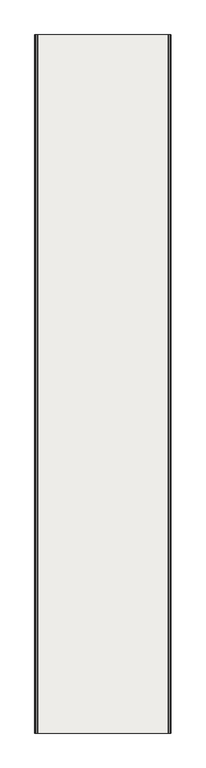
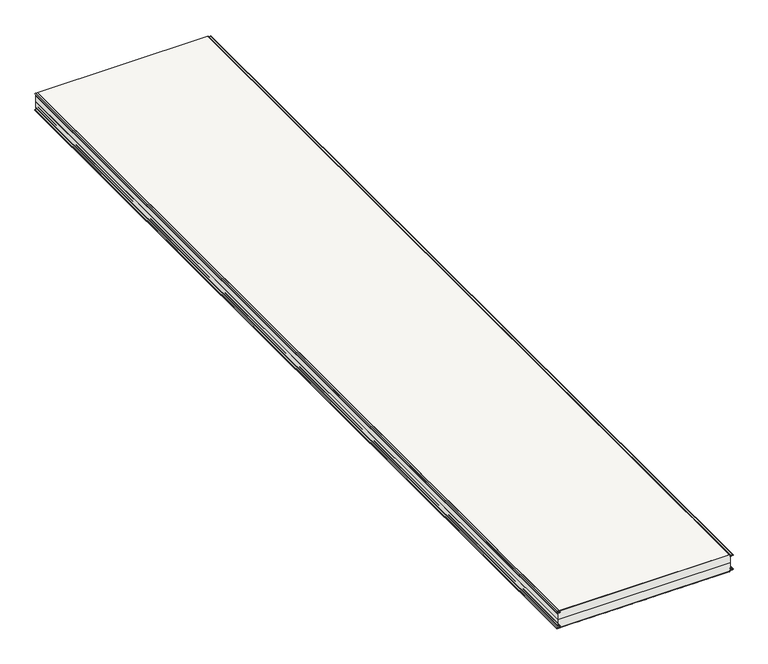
"""IFC4 building model written with IfcOpenShell, lengths in millimetres: covering geometry, Płyta warstwowa ścienna SPW-S CORE PIR (pojedynczy arkusz) : -."""

from ifc_helpers import new_model, si_unit, point, frame, frame_2d, origin, place, context, project, spatial, polyline, circle_curve, trimmed, segment, composite_curve, outline, extrude, source, transform, mapped, element, save
from ifc_brep_helpers import plane_surface, cylinder_surface, revolved_surface, advanced_brep


def covering_9212b8ed(model_context):
    return source(origin(), model_context, "Body", "SolidModel", [
        extrude(outline(composite_curve([segment(trimmed(circle_curve(frame_2d((-117.0000044, -1187.1173525)), 1.9999956), [point((-119.0, -1187.1173525))], [point((-115.0012272, -1187.1871548))], True, "CARTESIAN"), True, "CONTINUOUS"), segment(polyline([(-115.0012272, -1187.1871548), (-114.4480424, -1171.3468073)]), True, "CONTINUOUS"), segment(trimmed(circle_curve(frame_2d((-109.950784, -1171.5038629)), 4.5), [point((-114.4480424, -1171.3468073))], [point((-105.4569506, -1171.2683589))], False, "CARTESIAN"), True, "CONTINUOUS"), segment(polyline([(-105.4569506, -1171.2683589), (-104.890434, -1182.0785016)]), True, "CONTINUOUS"), segment(trimmed(circle_curve(frame_2d((-103.3924895, -1182.0000003)), 1.5), [point((-104.890434, -1182.0785016))], [point((-103.3924895, -1183.5000003))], True, "CARTESIAN"), True, "CONTINUOUS"), segment(polyline([(-103.3924895, -1183.5000003), (-100.8924895, -1183.5000003), (-100.8924895, -1184.5000003), (-103.3924895, -1184.5000003)]), True, "CONTINUOUS"), segment(trimmed(circle_curve(frame_2d((-103.3924895, -1182.0000003)), 2.5), [point((-103.3924895, -1184.5000003))], [point((-105.8890636, -1182.1308358))], False, "CARTESIAN"), True, "CONTINUOUS"), segment(polyline([(-105.8890636, -1182.1308358), (-106.4555803, -1171.3206931)]), True, "CONTINUOUS"), segment(trimmed(circle_curve(frame_2d((-109.950784, -1171.5038629)), 3.5), [point((-106.4555803, -1171.3206931))], [point((-113.4486516, -1171.3817085))], True, "CARTESIAN"), True, "CONTINUOUS"), segment(polyline([(-113.4486516, -1171.3817085), (-114.0018364, -1187.222056)]), True, "CONTINUOUS"), segment(trimmed(circle_curve(frame_2d((-117.0000044, -1187.1173525)), 2.9999956), [point((-114.0018364, -1187.222056))], [point((-120.0, -1187.1173525))], False, "CARTESIAN"), True, "CONTINUOUS"), segment(polyline([(-120.0, -1187.1173525), (-120.0, -1185.0000003), (-119.0, -1185.0000003), (-119.0, -1187.1173525)]), True, "CONTINUOUS")], self_intersect=False)), frame((0.0, -6000.0, 0.0), z_axis=(0.0, 1.0, 0.0), x_axis=(0.0, 0.0, 1.0)), (0.0, 0.0, 1.0), 6000.0),
        extrude(outline(composite_curve([segment(polyline([(-1.0, -1187.1173525), (-1.0, -1185.0000003), (0.0, -1185.0000003), (0.0, -1187.1173525)]), True, "CONTINUOUS"), segment(trimmed(circle_curve(frame_2d((-2.9999956, -1187.1173525)), 2.9999956), [point((0.0, -1187.1173525))], [point((-5.9981636, -1187.222056))], False, "CARTESIAN"), True, "CONTINUOUS"), segment(polyline([(-5.9981636, -1187.222056), (-6.5513484, -1171.3817085)]), True, "CONTINUOUS"), segment(trimmed(circle_curve(frame_2d((-10.049216, -1171.5038629)), 3.5), [point((-6.5513484, -1171.3817085))], [point((-13.5444197, -1171.3206931))], True, "CARTESIAN"), True, "CONTINUOUS"), segment(polyline([(-13.5444197, -1171.3206931), (-14.1109364, -1182.1308358)]), True, "CONTINUOUS"), segment(trimmed(circle_curve(frame_2d((-16.6075105, -1182.0000003)), 2.5), [point((-14.1109364, -1182.1308358))], [point((-16.6075105, -1184.5000003))], False, "CARTESIAN"), True, "CONTINUOUS"), segment(polyline([(-16.6075105, -1184.5000003), (-19.1075105, -1184.5000003), (-19.1075105, -1183.5000003), (-16.6075105, -1183.5000003)]), True, "CONTINUOUS"), segment(trimmed(circle_curve(frame_2d((-16.6075105, -1182.0000003)), 1.5), [point((-16.6075105, -1183.5000003))], [point((-15.109566, -1182.0785016))], True, "CARTESIAN"), True, "CONTINUOUS"), segment(polyline([(-15.109566, -1182.0785016), (-14.5430494, -1171.2683589)]), True, "CONTINUOUS"), segment(trimmed(circle_curve(frame_2d((-10.049216, -1171.5038629)), 4.5), [point((-14.5430494, -1171.2683589))], [point((-5.5519576, -1171.3468073))], False, "CARTESIAN"), True, "CONTINUOUS"), segment(polyline([(-5.5519576, -1171.3468073), (-4.9987728, -1187.1871548)]), True, "CONTINUOUS"), segment(trimmed(circle_curve(frame_2d((-2.9999956, -1187.1173525)), 1.9999956), [point((-4.9987728, -1187.1871548))], [point((-1.0, -1187.1173525))], True, "CARTESIAN"), True, "CONTINUOUS")], self_intersect=False)), frame((0.0, -6000.0, 0.0), z_axis=(0.0, 1.0, 0.0), x_axis=(0.0, 0.0, 1.0)), (0.0, 0.0, 1.0), 6000.0),
        advanced_brep(
        [(-1185.0, 0.0, -119.0), (-43.1186621, 0.0, -119.0), (-41.1186621, 0.0, -117.0), (-41.1186621, 0.0, -114.93), (-39.1884611, 0.0, -112.9312183), (-22.5992017, 0.0, -112.3519086), (-22.43132, 0.0, -107.5379716), (-33.6570079, 0.0, -106.9496582), (-36.5, 0.0, -103.9537696), (-36.5, 0.0, -101.4537696), (-35.5, 0.0, -101.4537696), (-35.5, 0.0, -103.9537696), (-33.6046719, 0.0, -105.9510287), (-22.6550677, 0.0, -106.5248731), (-22.6835162, 0.0, -113.3501612), (-39.1535616, 0.0, -113.9306092), (-40.1186621, 0.0, -114.93), (-40.1186621, 0.0, -117.0), (-43.1186621, 0.0, -120.0), (-90.0275239, 0.0, -120.0), (-91.4098003, 0.0, -119.6), (-135.6275239, 0.0, -119.6), (-137.0098003, 0.0, -120.0), (-181.2275239, 0.0, -120.0), (-182.6098003, 0.0, -119.6), (-226.8275239, 0.0, -119.6), (-228.2098003, 0.0, -120.0), (-272.4275239, 0.0, -120.0), (-273.8098003, 0.0, -119.6), (-318.0275239, 0.0, -119.6), (-319.4098003, 0.0, -120.0), (-363.6275239, 0.0, -120.0), (-365.0098003, 0.0, -119.6), (-409.2275239, 0.0, -119.6), (-410.6098003, 0.0, -120.0), (-454.8275239, 0.0, -120.0), (-456.2098003, 0.0, -119.6), (-500.4275239, 0.0, -119.6), (-501.8098003, 0.0, -120.0), (-546.0275239, 0.0, -120.0), (-547.4098003, 0.0, -119.6), (-591.6275239, 0.0, -119.6), (-593.0098003, 0.0, -120.0), (-637.2275239, 0.0, -120.0), (-638.6098003, 0.0, -119.6), (-682.8275239, 0.0, -119.6), (-684.2098003, 0.0, -120.0), (-728.4275239, 0.0, -120.0), (-729.8098003, 0.0, -119.6), (-774.0275239, 0.0, -119.6), (-775.4098003, 0.0, -120.0), (-819.6275239, 0.0, -120.0), (-821.0098003, 0.0, -119.6), (-865.2275239, 0.0, -119.6), (-866.6098003, 0.0, -120.0), (-910.8275239, 0.0, -120.0), (-912.2098003, 0.0, -119.6), (-956.4275239, 0.0, -119.6), (-957.8098003, 0.0, -120.0), (-1002.0275239, 0.0, -120.0), (-1003.4098003, 0.0, -119.6), (-1047.6275239, 0.0, -119.6), (-1049.0098003, 0.0, -120.0), (-1093.2275239, 0.0, -120.0), (-1094.6098003, 0.0, -119.6), (-1138.8275239, 0.0, -119.6), (-1140.2098003, 0.0, -120.0), (-1185.0, 0.0, -120.0), (-1185.0, -6000.0, -119.0), (-1185.0, -6000.0, -120.0), (-1140.2098003, -6000.0, -120.0), (-1138.8275239, -6000.0, -119.6), (-1094.6098003, -6000.0, -119.6), (-1093.2275239, -6000.0, -120.0), (-1049.0098003, -6000.0, -120.0), (-1047.6275239, -6000.0, -119.6), (-1003.4098003, -6000.0, -119.6), (-1002.0275239, -6000.0, -120.0), (-957.8098003, -6000.0, -120.0), (-956.4275239, -6000.0, -119.6), (-912.2098003, -6000.0, -119.6), (-910.8275239, -6000.0, -120.0), (-866.6098003, -6000.0, -120.0), (-865.2275239, -6000.0, -119.6), (-821.0098003, -6000.0, -119.6), (-819.6275239, -6000.0, -120.0), (-775.4098003, -6000.0, -120.0), (-774.0275239, -6000.0, -119.6), (-729.8098003, -6000.0, -119.6), (-728.4275239, -6000.0, -120.0), (-684.2098003, -6000.0, -120.0), (-682.8275239, -6000.0, -119.6), (-638.6098003, -6000.0, -119.6), (-637.2275239, -6000.0, -120.0), (-593.0098003, -6000.0, -120.0), (-591.6275239, -6000.0, -119.6), (-547.4098003, -6000.0, -119.6), (-546.0275239, -6000.0, -120.0), (-501.8098003, -6000.0, -120.0), (-500.4275239, -6000.0, -119.6), (-456.2098003, -6000.0, -119.6), (-454.8275239, -6000.0, -120.0), (-410.6098003, -6000.0, -120.0), (-409.2275239, -6000.0, -119.6), (-365.0098003, -6000.0, -119.6), (-363.6275239, -6000.0, -120.0), (-319.4098003, -6000.0, -120.0), (-318.0275239, -6000.0, -119.6), (-273.8098003, -6000.0, -119.6), (-272.4275239, -6000.0, -120.0), (-228.2098003, -6000.0, -120.0), (-226.8275239, -6000.0, -119.6), (-182.6098003, -6000.0, -119.6), (-181.2275239, -6000.0, -120.0), (-137.0098003, -6000.0, -120.0), (-135.6275239, -6000.0, -119.6), (-91.4098003, -6000.0, -119.6), (-90.0275239, -6000.0, -120.0), (-43.1186621, -6000.0, -120.0), (-40.1186621, -6000.0, -117.0), (-40.1186621, -6000.0, -114.93), (-39.1535616, -6000.0, -113.9306092), (-22.7218558, -6000.0, -113.3568014), (-22.6550677, -6000.0, -106.5248731), (-33.6046719, -6000.0, -105.9510287), (-35.5, -6000.0, -103.9537696), (-35.5, -6000.0, -101.4537696), (-36.5, -6000.0, -101.4537696), (-36.5, -6000.0, -103.9537696), (-33.6570079, -6000.0, -106.9496582), (-22.43132, -6000.0, -107.5379716), (-22.5993141, -6000.0, -112.3486915), (-39.1884611, -6000.0, -112.9312183), (-41.1186621, -6000.0, -114.93), (-41.1186621, -6000.0, -117.0), (-43.1186621, -6000.0, -119.0)],
        [
            (0, 1),
            (1, 2, circle_curve(frame((-43.1186621, 0.0, -117.0), z_axis=(0.0, -1.0, 0.0), x_axis=(1.0, 0.0, 0.0)), 2.0)),
            (2, 3),
            (3, 4, circle_curve(frame((-39.1186621, 0.0, -114.93), z_axis=(0.0, 1.0, 0.0), x_axis=(1.0, 0.0, 0.0)), 2.0)),
            (4, 5),
            (5, 6, circle_curve(frame((-22.6835162, 0.0, -109.9374579), z_axis=(0.0, -1.0, 0.0), x_axis=(1.0, 0.0, 0.0)), 2.4127033)),
            (6, 7),
            (7, 8, circle_curve(frame((-33.5, 0.0, -103.9537696), z_axis=(0.0, 1.0, 0.0), x_axis=(1.0, 0.0, 0.0)), 3.0)),
            (8, 9),
            (9, 10),
            (10, 11),
            (11, 12, circle_curve(frame((-33.5, 0.0, -103.9537696), z_axis=(0.0, -1.0, 0.0), x_axis=(1.0, 0.0, 0.0)), 2.0)),
            (12, 13),
            (13, 14, circle_curve(frame((-22.6835162, 0.0, -109.9374579), z_axis=(0.0, 1.0, 0.0), x_axis=(1.0, 0.0, 0.0)), 3.4127033)),
            (14, 15),
            (15, 16, circle_curve(frame((-39.1186621, 0.0, -114.93), z_axis=(0.0, -1.0, 0.0), x_axis=(1.0, 0.0, 0.0)), 1.0)),
            (16, 17),
            (17, 18, circle_curve(frame((-43.1186621, 0.0, -117.0), z_axis=(0.0, 1.0, 0.0), x_axis=(1.0, 0.0, 0.0)), 3.0)),
            (18, 19),
            (19, 20),
            (20, 21),
            (21, 22),
            (22, 23),
            (23, 24),
            (24, 25),
            (25, 26),
            (26, 27),
            (27, 28),
            (28, 29),
            (29, 30),
            (30, 31),
            (31, 32),
            (32, 33),
            (33, 34),
            (34, 35),
            (35, 36),
            (36, 37),
            (37, 38),
            (38, 39),
            (39, 40),
            (40, 41),
            (41, 42),
            (42, 43),
            (43, 44),
            (44, 45),
            (45, 46),
            (46, 47),
            (47, 48),
            (48, 49),
            (49, 50),
            (50, 51),
            (51, 52),
            (52, 53),
            (53, 54),
            (54, 55),
            (55, 56),
            (56, 57),
            (57, 58),
            (58, 59),
            (59, 60),
            (60, 61),
            (61, 62),
            (62, 63),
            (63, 64),
            (64, 65),
            (65, 66),
            (66, 67),
            (67, 0),
            (68, 69),
            (69, 70),
            (70, 71),
            (71, 72),
            (72, 73),
            (73, 74),
            (74, 75),
            (75, 76),
            (76, 77),
            (77, 78),
            (78, 79),
            (79, 80),
            (80, 81),
            (81, 82),
            (82, 83),
            (83, 84),
            (84, 85),
            (85, 86),
            (86, 87),
            (87, 88),
            (88, 89),
            (89, 90),
            (90, 91),
            (91, 92),
            (92, 93),
            (93, 94),
            (94, 95),
            (95, 96),
            (96, 97),
            (97, 98),
            (98, 99),
            (99, 100),
            (100, 101),
            (101, 102),
            (102, 103),
            (103, 104),
            (104, 105),
            (105, 106),
            (106, 107),
            (107, 108),
            (108, 109),
            (109, 110),
            (110, 111),
            (111, 112),
            (112, 113),
            (113, 114),
            (114, 115),
            (115, 116),
            (116, 117),
            (117, 118),
            (118, 119, circle_curve(frame((-43.1186621, -6000.0, -117.0), z_axis=(0.0, -1.0, 0.0), x_axis=(1.0, 0.0, 0.0)), 3.0)),
            (119, 120),
            (120, 121, circle_curve(frame((-39.1186621, -6000.0, -114.93), z_axis=(0.0, 1.0, 0.0), x_axis=(1.0, 0.0, 0.0)), 1.0)),
            (121, 122),
            (122, 123, circle_curve(frame((-22.6835162, -6000.0, -109.9374579), z_axis=(0.0, -1.0, 0.0), x_axis=(1.0, 0.0, 0.0)), 3.4127033)),
            (123, 124),
            (124, 125, circle_curve(frame((-33.5, -6000.0, -103.9537696), z_axis=(0.0, 1.0, 0.0), x_axis=(1.0, 0.0, 0.0)), 2.0)),
            (125, 126),
            (126, 127),
            (127, 128),
            (128, 129, circle_curve(frame((-33.5, -6000.0, -103.9537696), z_axis=(0.0, -1.0, 0.0), x_axis=(1.0, 0.0, 0.0)), 3.0)),
            (129, 130),
            (130, 131, circle_curve(frame((-22.6835162, -6000.0, -109.9374579), z_axis=(0.0, 1.0, 0.0), x_axis=(1.0, 0.0, 0.0)), 2.4127033)),
            (131, 132),
            (132, 133, circle_curve(frame((-39.1186621, -6000.0, -114.93), z_axis=(0.0, -1.0, 0.0), x_axis=(1.0, 0.0, 0.0)), 2.0)),
            (133, 134),
            (134, 135, circle_curve(frame((-43.1186621, -6000.0, -117.0), z_axis=(0.0, 1.0, 0.0), x_axis=(1.0, 0.0, 0.0)), 2.0)),
            (135, 68),
            (0, 68),
            (135, 1),
            (3, 133),
            (132, 4),
            (2, 134),
            (131, 5),
            (6, 130),
            (129, 7),
            (128, 8),
            (127, 9),
            (126, 10),
            (17, 119),
            (118, 18),
            (16, 120),
            (15, 121),
            (14, 122),
            (12, 124),
            (123, 13),
            (11, 125),
            (117, 19),
            (116, 20),
            (115, 21),
            (114, 22),
            (113, 23),
            (112, 24),
            (111, 25),
            (110, 26),
            (109, 27),
            (108, 28),
            (107, 29),
            (106, 30),
            (105, 31),
            (104, 32),
            (103, 33),
            (102, 34),
            (101, 35),
            (100, 36),
            (99, 37),
            (98, 38),
            (97, 39),
            (96, 40),
            (95, 41),
            (94, 42),
            (93, 43),
            (92, 44),
            (91, 45),
            (90, 46),
            (89, 47),
            (88, 48),
            (87, 49),
            (56, 80),
            (79, 57),
            (78, 58),
            (77, 59),
            (76, 60),
            (75, 61),
            (74, 62),
            (73, 63),
            (72, 64),
            (71, 65),
            (70, 66),
            (69, 67),
            (86, 50),
            (85, 51),
            (84, 52),
            (83, 53),
            (82, 54),
            (81, 55),
        ],
        [
            plane_surface(frame((-35.0, 0.0, -120.0), z_axis=(0.0, 1.0, 0.0), x_axis=(1.0, 0.0, 0.0))),
            plane_surface(frame((-35.0, -6000.0, -120.0), z_axis=(0.0, -1.0, 0.0), x_axis=(1.0, 0.0, 0.0))),
            plane_surface(frame((-1185.0, 0.0, -119.0), z_axis=(0.0, 0.0, 1.0), x_axis=(0.0, -1.0, 0.0))),
            cylinder_surface(frame((-39.1186621, 0.0, -114.93), z_axis=(0.0, 1.0, 0.0), x_axis=(1.0, 0.0, 0.0)), 2.0),
            plane_surface(frame((-41.1186621, 0.0, -117.0), z_axis=(-1.0, 0.0, 0.0), x_axis=(0.0, -1.0, 0.0))),
            revolved_surface(polyline([(-41.1186621, -6000.0, -117.0), (-41.1186621, 0.0, -117.0)]), (-43.1186621, 0.0, -117.0), (0.0, -1.0, 0.0)),
            plane_surface(frame((-39.1884611, 0.0, -112.9312183), z_axis=(-0.03489949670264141, 0.0, 0.9993908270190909), x_axis=(0.0, -1.0, 0.0))),
            plane_surface(frame((-22.43132, 0.0, -107.5379716), z_axis=(-0.052335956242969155, 0.0, -0.9986295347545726), x_axis=(0.0, -1.0, 0.0))),
            cylinder_surface(frame((-33.5, 0.0, -103.9537696), z_axis=(0.0, 1.0, 0.0), x_axis=(1.0, 0.0, 0.0)), 3.0),
            plane_surface(frame((-36.5, 0.0, -103.9537696), z_axis=(-1.0, 0.0, 0.0), x_axis=(0.0, -1.0, 0.0))),
            plane_surface(frame((-36.5, 0.0, -101.4537696), z_axis=(0.0, 0.0, 1.0), x_axis=(0.0, -1.0, 0.0))),
            cylinder_surface(frame((-43.1186621, 0.0, -117.0), z_axis=(0.0, 1.0, 0.0), x_axis=(1.0, 0.0, 0.0)), 3.0),
            plane_surface(frame((-40.1186621, 0.0, -114.93), z_axis=(1.0, 0.0, 0.0), x_axis=(0.0, -1.0, 0.0))),
            revolved_surface(polyline([(-38.1186621, -6000.0, -114.93), (-38.1186621, 0.0, -114.93)]), (-39.1186621, 0.0, -114.93), (0.0, -1.0, 0.0)),
            plane_surface(frame((-22.7218558, 0.0, -113.3568014), z_axis=(0.0348994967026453, 0.0, -0.9993908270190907), x_axis=(0.0, -1.0, 0.0))),
            plane_surface(frame((-33.6046719, 0.0, -105.9510287), z_axis=(0.05233595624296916, 0.0, 0.9986295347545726), x_axis=(0.0, -1.0, 0.0))),
            revolved_surface(polyline([(-31.5, -6000.0, -103.9537696), (-31.5, 0.0, -103.9537696)]), (-33.5, 0.0, -103.9537696), (0.0, -1.0, 0.0)),
            cylinder_surface(frame((-22.6835162, 0.0, -109.9374579), z_axis=(0.0, 1.0, 0.0), x_axis=(1.0, 0.0, 0.0)), 3.4127033),
            revolved_surface(polyline([(-20.2708129, -6000.0, -109.9374579), (-20.2708129, 0.0, -109.9374579)]), (-22.6835162, 0.0, -109.9374579), (0.0, -1.0, 0.0)),
            plane_surface(frame((-35.5, 0.0, -101.4537696), z_axis=(1.0, 0.0, 0.0), x_axis=(0.0, -1.0, 0.0))),
            plane_surface(frame((-43.1186621, 0.0, -120.0), z_axis=(0.0, 0.0, -1.0), x_axis=(0.0, -1.0, 0.0))),
            plane_surface(frame((-90.0275239, 0.0, -120.0), z_axis=(-0.27797301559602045, 0.0, -0.9605888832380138), x_axis=(0.0, -1.0, 0.0))),
            plane_surface(frame((-91.4098003, 0.0, -119.6), z_axis=(0.0, 0.0, -1.0), x_axis=(0.0, -1.0, 0.0))),
            plane_surface(frame((-135.6275239, 0.0, -119.6), z_axis=(0.27797301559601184, 0.0, -0.9605888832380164), x_axis=(0.0, -1.0, 0.0))),
            plane_surface(frame((-137.0098003, 0.0, -120.0), z_axis=(0.0, 0.0, -1.0), x_axis=(0.0, -1.0, 0.0))),
            plane_surface(frame((-181.2275239, 0.0, -120.0), z_axis=(-0.27797301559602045, 0.0, -0.9605888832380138), x_axis=(0.0, -1.0, 0.0))),
            plane_surface(frame((-182.6098003, 0.0, -119.6), z_axis=(0.0, 0.0, -1.0), x_axis=(0.0, -1.0, 0.0))),
            plane_surface(frame((-226.8275239, 0.0, -119.6), z_axis=(0.27797301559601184, 0.0, -0.9605888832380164), x_axis=(0.0, -1.0, 0.0))),
            plane_surface(frame((-228.2098003, 0.0, -120.0), z_axis=(0.0, 0.0, -1.0), x_axis=(0.0, -1.0, 0.0))),
            plane_surface(frame((-272.4275239, 0.0, -120.0), z_axis=(-0.27797301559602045, 0.0, -0.9605888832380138), x_axis=(0.0, -1.0, 0.0))),
            plane_surface(frame((-273.8098003, 0.0, -119.6), z_axis=(0.0, 0.0, -1.0), x_axis=(0.0, -1.0, 0.0))),
            plane_surface(frame((-318.0275239, 0.0, -119.6), z_axis=(0.27797301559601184, 0.0, -0.9605888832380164), x_axis=(0.0, -1.0, 0.0))),
            plane_surface(frame((-319.4098003, 0.0, -120.0), z_axis=(0.0, 0.0, -1.0), x_axis=(0.0, -1.0, 0.0))),
            plane_surface(frame((-363.6275239, 0.0, -120.0), z_axis=(-0.27797301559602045, 0.0, -0.9605888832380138), x_axis=(0.0, -1.0, 0.0))),
            plane_surface(frame((-365.0098003, 0.0, -119.6), z_axis=(0.0, 0.0, -1.0), x_axis=(0.0, -1.0, 0.0))),
            plane_surface(frame((-409.2275239, 0.0, -119.6), z_axis=(0.27797301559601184, 0.0, -0.9605888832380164), x_axis=(0.0, -1.0, 0.0))),
            plane_surface(frame((-410.6098003, 0.0, -120.0), z_axis=(0.0, 0.0, -1.0), x_axis=(0.0, -1.0, 0.0))),
            plane_surface(frame((-454.8275239, 0.0, -120.0), z_axis=(-0.27797301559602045, 0.0, -0.9605888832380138), x_axis=(0.0, -1.0, 0.0))),
            plane_surface(frame((-456.2098003, 0.0, -119.6), z_axis=(0.0, 0.0, -1.0), x_axis=(0.0, -1.0, 0.0))),
            plane_surface(frame((-500.4275239, 0.0, -119.6), z_axis=(0.27797301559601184, 0.0, -0.9605888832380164), x_axis=(0.0, -1.0, 0.0))),
            plane_surface(frame((-501.8098003, 0.0, -120.0), z_axis=(0.0, 0.0, -1.0), x_axis=(0.0, -1.0, 0.0))),
            plane_surface(frame((-546.0275239, 0.0, -120.0), z_axis=(-0.27797301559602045, 0.0, -0.9605888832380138), x_axis=(0.0, -1.0, 0.0))),
            plane_surface(frame((-547.4098003, 0.0, -119.6), z_axis=(0.0, 0.0, -1.0), x_axis=(0.0, -1.0, 0.0))),
            plane_surface(frame((-591.6275239, 0.0, -119.6), z_axis=(0.27797301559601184, 0.0, -0.9605888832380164), x_axis=(0.0, -1.0, 0.0))),
            plane_surface(frame((-593.0098003, 0.0, -120.0), z_axis=(0.0, 0.0, -1.0), x_axis=(0.0, -1.0, 0.0))),
            plane_surface(frame((-637.2275239, 0.0, -120.0), z_axis=(-0.27797301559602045, 0.0, -0.9605888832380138), x_axis=(0.0, -1.0, 0.0))),
            plane_surface(frame((-638.6098003, 0.0, -119.6), z_axis=(0.0, 0.0, -1.0), x_axis=(0.0, -1.0, 0.0))),
            plane_surface(frame((-682.8275239, 0.0, -119.6), z_axis=(0.27797301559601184, 0.0, -0.9605888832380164), x_axis=(0.0, -1.0, 0.0))),
            plane_surface(frame((-684.2098003, 0.0, -120.0), z_axis=(0.0, 0.0, -1.0), x_axis=(0.0, -1.0, 0.0))),
            plane_surface(frame((-728.4275239, 0.0, -120.0), z_axis=(-0.27797301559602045, 0.0, -0.9605888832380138), x_axis=(0.0, -1.0, 0.0))),
            plane_surface(frame((-729.8098003, 0.0, -119.6), z_axis=(0.0, 0.0, -1.0), x_axis=(0.0, -1.0, 0.0))),
            plane_surface(frame((-912.2098003, 0.0, -119.6), z_axis=(0.0, 0.0, -1.0), x_axis=(0.0, -1.0, 0.0))),
            plane_surface(frame((-956.4275239, 0.0, -119.6), z_axis=(0.27797301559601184, 0.0, -0.9605888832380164), x_axis=(0.0, -1.0, 0.0))),
            plane_surface(frame((-957.8098003, 0.0, -120.0), z_axis=(0.0, 0.0, -1.0), x_axis=(0.0, -1.0, 0.0))),
            plane_surface(frame((-1002.0275239, 0.0, -120.0), z_axis=(-0.27797301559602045, 0.0, -0.9605888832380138), x_axis=(0.0, -1.0, 0.0))),
            plane_surface(frame((-1003.4098003, 0.0, -119.6), z_axis=(0.0, 0.0, -1.0), x_axis=(0.0, -1.0, 0.0))),
            plane_surface(frame((-1047.6275239, 0.0, -119.6), z_axis=(0.27797301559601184, 0.0, -0.9605888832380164), x_axis=(0.0, -1.0, 0.0))),
            plane_surface(frame((-1049.0098003, 0.0, -120.0), z_axis=(0.0, 0.0, -1.0), x_axis=(0.0, -1.0, 0.0))),
            plane_surface(frame((-1093.2275239, 0.0, -120.0), z_axis=(-0.27797301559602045, 0.0, -0.9605888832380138), x_axis=(0.0, -1.0, 0.0))),
            plane_surface(frame((-1094.6098003, 0.0, -119.6), z_axis=(0.0, 0.0, -1.0), x_axis=(0.0, -1.0, 0.0))),
            plane_surface(frame((-1138.8275239, 0.0, -119.6), z_axis=(0.27797301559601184, 0.0, -0.9605888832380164), x_axis=(0.0, -1.0, 0.0))),
            plane_surface(frame((-1140.2098003, 0.0, -120.0), z_axis=(0.0, 0.0, -1.0), x_axis=(0.0, -1.0, 0.0))),
            plane_surface(frame((-1185.0, 0.0, -120.0), z_axis=(-1.0, 0.0, 0.0), x_axis=(0.0, -1.0, 0.0))),
            plane_surface(frame((-774.0275239, 0.0, -119.6), z_axis=(0.27797301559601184, 0.0, -0.9605888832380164), x_axis=(0.0, -1.0, 0.0))),
            plane_surface(frame((-775.4098003, 0.0, -120.0), z_axis=(0.0, 0.0, -1.0), x_axis=(0.0, -1.0, 0.0))),
            plane_surface(frame((-819.6275239, 0.0, -120.0), z_axis=(-0.27797301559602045, 0.0, -0.9605888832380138), x_axis=(0.0, -1.0, 0.0))),
            plane_surface(frame((-821.0098003, 0.0, -119.6), z_axis=(0.0, 0.0, -1.0), x_axis=(0.0, -1.0, 0.0))),
            plane_surface(frame((-865.2275239, 0.0, -119.6), z_axis=(0.27797301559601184, 0.0, -0.9605888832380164), x_axis=(0.0, -1.0, 0.0))),
            plane_surface(frame((-866.6098003, 0.0, -120.0), z_axis=(0.0, 0.0, -1.0), x_axis=(0.0, -1.0, 0.0))),
            plane_surface(frame((-910.8275239, 0.0, -120.0), z_axis=(-0.27797301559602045, 0.0, -0.9605888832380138), x_axis=(0.0, -1.0, 0.0))),
        ],
        [
            (0, [[1, 2, 3, 4, 5, 6, 7, 8, 9, 10, 11, 12, 13, 14, 15, 16, 17, 18, 19, 20, 21, 22, 23, 24, 25, 26, 27, 28, 29, 30, 31, 32, 33, 34, 35, 36, 37, 38, 39, 40, 41, 42, 43, 44, 45, 46, 47, 48, 49, 50, 51, 52, 53, 54, 55, 56, 57, 58, 59, 60, 61, 62, 63, 64, 65, 66, 67, 68]]),
            (1, [[69, 70, 71, 72, 73, 74, 75, 76, 77, 78, 79, 80, 81, 82, 83, 84, 85, 86, 87, 88, 89, 90, 91, 92, 93, 94, 95, 96, 97, 98, 99, 100, 101, 102, 103, 104, 105, 106, 107, 108, 109, 110, 111, 112, 113, 114, 115, 116, 117, 118, 119, 120, 121, 122, 123, 124, 125, 126, 127, 128, 129, 130, 131, 132, 133, 134, 135, 136]]),
            (2, [[-1, 137, -136, 138]]),
            (3, [[-4, 139, -133, 140]]),
            (4, [[-3, 141, -134, -139]]),
            (5, [[-2, -138, -135, -141]]),
            (6, [[-5, -140, -132, 142]]),
            (7, [[-7, 143, -130, 144]]),
            (8, [[-8, -144, -129, 145]]),
            (9, [[-9, -145, -128, 146]]),
            (10, [[-10, -146, -127, 147]]),
            (11, [[-18, 148, -119, 149]]),
            (12, [[-17, 150, -120, -148]]),
            (13, [[-16, 151, -121, -150]]),
            (14, [[-15, 152, -122, -151]]),
            (15, [[-13, 153, -124, 154]]),
            (16, [[-12, 155, -125, -153]]),
            (17, [[-14, -154, -123, -152]]),
            (18, [[-6, -142, -131, -143]]),
            (19, [[-11, -147, -126, -155]]),
            (20, [[-19, -149, -118, 156]]),
            (21, [[-20, -156, -117, 157]]),
            (22, [[-21, -157, -116, 158]]),
            (23, [[-22, -158, -115, 159]]),
            (24, [[-23, -159, -114, 160]]),
            (25, [[-24, -160, -113, 161]]),
            (26, [[-25, -161, -112, 162]]),
            (27, [[-26, -162, -111, 163]]),
            (28, [[-27, -163, -110, 164]]),
            (29, [[-28, -164, -109, 165]]),
            (30, [[-29, -165, -108, 166]]),
            (31, [[-30, -166, -107, 167]]),
            (32, [[-31, -167, -106, 168]]),
            (33, [[-32, -168, -105, 169]]),
            (34, [[-33, -169, -104, 170]]),
            (35, [[-34, -170, -103, 171]]),
            (36, [[-35, -171, -102, 172]]),
            (37, [[-36, -172, -101, 173]]),
            (38, [[-37, -173, -100, 174]]),
            (39, [[-38, -174, -99, 175]]),
            (40, [[-39, -175, -98, 176]]),
            (41, [[-40, -176, -97, 177]]),
            (42, [[-41, -177, -96, 178]]),
            (43, [[-42, -178, -95, 179]]),
            (44, [[-43, -179, -94, 180]]),
            (45, [[-44, -180, -93, 181]]),
            (46, [[-45, -181, -92, 182]]),
            (47, [[-46, -182, -91, 183]]),
            (48, [[-47, -183, -90, 184]]),
            (49, [[-48, -184, -89, 185]]),
            (50, [[-49, -185, -88, 186]]),
            (51, [[-57, 187, -80, 188]]),
            (52, [[-58, -188, -79, 189]]),
            (53, [[-59, -189, -78, 190]]),
            (54, [[-60, -190, -77, 191]]),
            (55, [[-61, -191, -76, 192]]),
            (56, [[-62, -192, -75, 193]]),
            (57, [[-63, -193, -74, 194]]),
            (58, [[-64, -194, -73, 195]]),
            (59, [[-65, -195, -72, 196]]),
            (60, [[-66, -196, -71, 197]]),
            (61, [[-67, -197, -70, 198]]),
            (62, [[-68, -198, -69, -137]]),
            (63, [[-50, -186, -87, 199]]),
            (64, [[-51, -199, -86, 200]]),
            (65, [[-52, -200, -85, 201]]),
            (66, [[-53, -201, -84, 202]]),
            (67, [[-54, -202, -83, 203]]),
            (68, [[-55, -203, -82, 204]]),
            (69, [[-56, -204, -81, -187]]),
        ],
    ),
        advanced_brep(
        [(-1185.0000003, 0.0, -1.0), (-1185.0000003, 0.0, 0.0), (-43.1186621, 0.0, 0.0), (-40.1186621, 0.0, -3.0), (-40.1186621, 0.0, -5.07), (-39.1535616, 0.0, -6.0693908), (-22.7218558, 0.0, -6.6431986), (-22.6835162, 0.0, -13.4752455), (-33.6046719, 0.0, -14.0489713), (-35.5, 0.0, -16.0462304), (-35.5, 0.0, -18.5462304), (-36.5, 0.0, -18.5462304), (-36.5, 0.0, -16.0462304), (-33.6570079, 0.0, -13.0503418), (-22.43132, 0.0, -12.4620284), (-22.5993141, 0.0, -7.6513085), (-39.1884611, 0.0, -7.0687817), (-41.1186621, 0.0, -5.07), (-41.1186621, 0.0, -3.0), (-43.1186621, 0.0, -1.0), (-1185.0000003, -6000.0, -1.0), (-43.1186621, -6000.0, -1.0), (-41.1186621, -6000.0, -3.0), (-41.1186621, -6000.0, -5.07), (-39.1884611, -6000.0, -7.0687817), (-22.5992017, -6000.0, -7.6480914), (-22.43132, -6000.0, -12.4620284), (-33.6570079, -6000.0, -13.0503418), (-36.5, -6000.0, -16.0462304), (-36.5, -6000.0, -18.5462304), (-35.5, -6000.0, -18.5462304), (-35.5, -6000.0, -16.0462304), (-33.6046719, -6000.0, -14.0489713), (-22.6071775, -6000.0, -13.4726171), (-22.6835162, -6000.0, -6.6498388), (-39.1535616, -6000.0, -6.0693908), (-40.1186621, -6000.0, -5.07), (-40.1186621, -6000.0, -3.0), (-43.1186621, -6000.0, 0.0), (-1185.0000003, -6000.0, 0.0)],
        [
            (0, 1),
            (1, 2),
            (2, 3, circle_curve(frame((-43.1186621, 0.0, -3.0), z_axis=(0.0, 1.0, 0.0), x_axis=(1.0, 0.0, 0.0)), 3.0)),
            (3, 4),
            (4, 5, circle_curve(frame((-39.1186621, 0.0, -5.07), z_axis=(0.0, -1.0, 0.0), x_axis=(1.0, 0.0, 0.0)), 1.0)),
            (5, 6),
            (6, 7, circle_curve(frame((-22.6835162, 0.0, -10.0625421), z_axis=(0.0, 1.0, 0.0), x_axis=(1.0, 0.0, 0.0)), 3.4127033)),
            (7, 8),
            (8, 9, circle_curve(frame((-33.5, 0.0, -16.0462304), z_axis=(0.0, -1.0, 0.0), x_axis=(1.0, 0.0, 0.0)), 2.0)),
            (9, 10),
            (10, 11),
            (11, 12),
            (12, 13, circle_curve(frame((-33.5, 0.0, -16.0462304), z_axis=(0.0, 1.0, 0.0), x_axis=(1.0, 0.0, 0.0)), 3.0)),
            (13, 14),
            (14, 15, circle_curve(frame((-22.6835162, 0.0, -10.0625421), z_axis=(0.0, -1.0, 0.0), x_axis=(1.0, 0.0, 0.0)), 2.4127033)),
            (15, 16),
            (16, 17, circle_curve(frame((-39.1186621, 0.0, -5.07), z_axis=(0.0, 1.0, 0.0), x_axis=(1.0, 0.0, 0.0)), 2.0)),
            (17, 18),
            (18, 19, circle_curve(frame((-43.1186621, 0.0, -3.0), z_axis=(0.0, -1.0, 0.0), x_axis=(1.0, 0.0, 0.0)), 2.0)),
            (19, 0),
            (20, 21),
            (21, 22, circle_curve(frame((-43.1186621, -6000.0, -3.0), z_axis=(0.0, 1.0, 0.0), x_axis=(1.0, 0.0, 0.0)), 2.0)),
            (22, 23),
            (23, 24, circle_curve(frame((-39.1186621, -6000.0, -5.07), z_axis=(0.0, -1.0, 0.0), x_axis=(1.0, 0.0, 0.0)), 2.0)),
            (24, 25),
            (25, 26, circle_curve(frame((-22.6835162, -6000.0, -10.0625421), z_axis=(0.0, 1.0, 0.0), x_axis=(1.0, 0.0, 0.0)), 2.4127033)),
            (26, 27),
            (27, 28, circle_curve(frame((-33.5, -6000.0, -16.0462304), z_axis=(0.0, -1.0, 0.0), x_axis=(1.0, 0.0, 0.0)), 3.0)),
            (28, 29),
            (29, 30),
            (30, 31),
            (31, 32, circle_curve(frame((-33.5, -6000.0, -16.0462304), z_axis=(0.0, 1.0, 0.0), x_axis=(1.0, 0.0, 0.0)), 2.0)),
            (32, 33),
            (33, 34, circle_curve(frame((-22.6835162, -6000.0, -10.0625421), z_axis=(0.0, -1.0, 0.0), x_axis=(1.0, 0.0, 0.0)), 3.4127033)),
            (34, 35),
            (35, 36, circle_curve(frame((-39.1186621, -6000.0, -5.07), z_axis=(0.0, 1.0, 0.0), x_axis=(1.0, 0.0, 0.0)), 1.0)),
            (36, 37),
            (37, 38, circle_curve(frame((-43.1186621, -6000.0, -3.0), z_axis=(0.0, -1.0, 0.0), x_axis=(1.0, 0.0, 0.0)), 3.0)),
            (38, 39),
            (39, 20),
            (19, 21),
            (20, 0),
            (1, 39),
            (38, 2),
            (16, 24),
            (23, 17),
            (22, 18),
            (15, 25),
            (13, 27),
            (26, 14),
            (10, 30),
            (29, 11),
            (12, 28),
            (4, 36),
            (35, 5),
            (9, 31),
            (8, 32),
            (7, 33),
            (6, 34),
            (37, 3),
        ],
        [
            plane_surface(frame((-35.0, 0.0, -1.0), z_axis=(0.0, 1.0, 0.0), x_axis=(1.0, 0.0, 0.0))),
            plane_surface(frame((-35.0, -6000.0, -1.0), z_axis=(0.0, -1.0, 0.0), x_axis=(1.0, 0.0, 0.0))),
            plane_surface(frame((-43.1186621, 0.0, -1.0), z_axis=(0.0, 0.0, -1.0), x_axis=(0.0, -1.0, 0.0))),
            plane_surface(frame((-1185.0000003, 0.0, 0.0), z_axis=(0.0, 0.0, 1.0), x_axis=(0.0, -1.0, 0.0))),
            cylinder_surface(frame((-39.1186621, 0.0, -5.07), z_axis=(0.0, 1.0, 0.0), x_axis=(1.0, 0.0, 0.0)), 2.0),
            plane_surface(frame((-41.1186621, 0.0, -5.07), z_axis=(-1.0, 0.0, 0.0), x_axis=(0.0, -1.0, 0.0))),
            revolved_surface(polyline([(-41.1186621, -6000.0, -3.0), (-41.1186621, 0.0, -3.0)]), (-43.1186621, 0.0, -3.0), (0.0, -1.0, 0.0)),
            plane_surface(frame((-22.5992017, 0.0, -7.6480914), z_axis=(-0.034899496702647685, 0.0, -0.9993908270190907), x_axis=(0.0, -1.0, 0.0))),
            plane_surface(frame((-33.6570079, 0.0, -13.0503418), z_axis=(-0.05233595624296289, 0.0, 0.998629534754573), x_axis=(0.0, -1.0, 0.0))),
            plane_surface(frame((-35.5, 0.0, -18.5462304), z_axis=(0.0, 0.0, -1.0), x_axis=(0.0, -1.0, 0.0))),
            cylinder_surface(frame((-33.5, 0.0, -16.0462304), z_axis=(0.0, 1.0, 0.0), x_axis=(1.0, 0.0, 0.0)), 3.0),
            plane_surface(frame((-36.5, 0.0, -18.5462304), z_axis=(-1.0, 0.0, 0.0), x_axis=(0.0, -1.0, 0.0))),
            revolved_surface(polyline([(-38.1186621, -6000.0, -5.07), (-38.1186621, 0.0, -5.07)]), (-39.1186621, 0.0, -5.07), (0.0, -1.0, 0.0)),
            plane_surface(frame((-35.5, 0.0, -16.0462304), z_axis=(1.0, 0.0, 0.0), x_axis=(0.0, -1.0, 0.0))),
            revolved_surface(polyline([(-31.5, -6000.0, -16.0462304), (-31.5, 0.0, -16.0462304)]), (-33.5, 0.0, -16.0462304), (0.0, -1.0, 0.0)),
            plane_surface(frame((-22.6071775, 0.0, -13.4726171), z_axis=(0.052335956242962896, 0.0, -0.998629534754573), x_axis=(0.0, -1.0, 0.0))),
            revolved_surface(polyline([(-20.2708129, -6000.0, -10.0625421), (-20.2708129, 0.0, -10.0625421)]), (-22.6835162, 0.0, -10.0625421), (0.0, -1.0, 0.0)),
            cylinder_surface(frame((-22.6835162, 0.0, -10.0625421), z_axis=(0.0, 1.0, 0.0), x_axis=(1.0, 0.0, 0.0)), 3.4127033),
            plane_surface(frame((-1185.0000003, 0.0, -1.0), z_axis=(-1.0, 0.0, 0.0), x_axis=(0.0, -1.0, 0.0))),
            cylinder_surface(frame((-43.1186621, 0.0, -3.0), z_axis=(0.0, 1.0, 0.0), x_axis=(1.0, 0.0, 0.0)), 3.0),
            plane_surface(frame((-40.1186621, 0.0, -3.0), z_axis=(1.0, 0.0, 0.0), x_axis=(0.0, -1.0, 0.0))),
            plane_surface(frame((-39.1535616, 0.0, -6.0693908), z_axis=(0.03489949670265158, 0.0, 0.9993908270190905), x_axis=(0.0, -1.0, 0.0))),
        ],
        [
            (0, [[1, 2, 3, 4, 5, 6, 7, 8, 9, 10, 11, 12, 13, 14, 15, 16, 17, 18, 19, 20]]),
            (1, [[21, 22, 23, 24, 25, 26, 27, 28, 29, 30, 31, 32, 33, 34, 35, 36, 37, 38, 39, 40]]),
            (2, [[-20, 41, -21, 42]]),
            (3, [[-2, 43, -39, 44]]),
            (4, [[-17, 45, -24, 46]]),
            (5, [[-18, -46, -23, 47]]),
            (6, [[-19, -47, -22, -41]]),
            (7, [[-16, 48, -25, -45]]),
            (8, [[-14, 49, -27, 50]]),
            (9, [[-11, 51, -30, 52]]),
            (10, [[-13, 53, -28, -49]]),
            (11, [[-12, -52, -29, -53]]),
            (12, [[-5, 54, -36, 55]]),
            (13, [[-10, 56, -31, -51]]),
            (14, [[-9, 57, -32, -56]]),
            (15, [[-8, 58, -33, -57]]),
            (16, [[-15, -50, -26, -48]]),
            (17, [[-7, 59, -34, -58]]),
            (18, [[-1, -42, -40, -43]]),
            (19, [[-3, -44, -38, 60]]),
            (20, [[-4, -60, -37, -54]]),
            (21, [[-6, -55, -35, -59]]),
        ],
    ),
        advanced_brep(
        [(-1187.1871548, -6000.0, -115.0012272), (-1187.1871548, 0.0, -115.0012272), (-1187.1173525, 0.0, -119.0), (-1187.1173525, -6000.0, -119.0), (-1171.3468073, -6000.0, -114.4480424), (-1171.3468073, 0.0, -114.4480424), (-1171.2683589, -6000.0, -105.4569506), (-1171.2683589, 0.0, -105.4569506), (-1182.0785016, -6000.0, -104.890434), (-1182.0785016, 0.0, -104.890434), (-1183.5000003, -6000.0, -103.3924895), (-1183.5000003, 0.0, -103.3924895), (-1183.5000003, -6000.0, -60.0), (-1183.5000003, 0.0, -60.0), (-1185.0000003, -6000.0, -119.0), (-44.6192414, -6000.0, -119.0), (-43.1186621, -6000.0, -119.0), (-41.1186621, -6000.0, -117.0), (-41.1186621, -6000.0, -114.93), (-39.1884611, -6000.0, -112.9312183), (-22.5992017, -6000.0, -112.3519086), (-22.1786572, -6000.0, -107.5781667), (-33.6570078, -6000.0, -106.9496582), (-36.5, -6000.0, -103.9537696), (-36.5, -6000.0, -60.0), (-1185.0000003, 0.0, -119.0), (-36.5, 0.0, -60.0), (-36.5, 0.0, -103.9537696), (-33.6570078, 0.0, -106.9496582), (-22.1786572, 0.0, -107.5781667), (-22.5993141, 0.0, -112.3486915), (-39.1884611, 0.0, -112.9312183), (-41.1186621, 0.0, -114.93), (-41.1186621, 0.0, -117.0), (-43.1186621, 0.0, -119.0), (-44.6192414, 0.0, -119.0)],
        [
            (0, 1),
            (1, 2, circle_curve(frame((-1187.1173525, 0.0, -117.0000044), z_axis=(0.0, -1.0, 0.0), x_axis=(-1.0, 0.0, 0.0)), 1.9999956)),
            (2, 3),
            (3, 0, circle_curve(frame((-1187.1173525, -6000.0, -117.0000044), z_axis=(0.0, 1.0, 0.0), x_axis=(-1.0, 0.0, 0.0)), 1.9999956)),
            (0, 4),
            (4, 5),
            (5, 1),
            (4, 6, circle_curve(frame((-1171.5038629, -6000.0, -109.950784), z_axis=(0.0, -1.0, 0.0), x_axis=(-1.0, 0.0, 0.0)), 4.5)),
            (6, 7),
            (7, 5, circle_curve(frame((-1171.5038629, 0.0, -109.950784), z_axis=(0.0, 1.0, 0.0), x_axis=(-1.0, 0.0, 0.0)), 4.5)),
            (6, 8),
            (8, 9),
            (9, 7),
            (8, 10, circle_curve(frame((-1182.0000003, -6000.0, -103.3924895), z_axis=(0.0, 1.0, 0.0), x_axis=(-1.0, 0.0, 0.0)), 1.5)),
            (10, 11),
            (11, 9, circle_curve(frame((-1182.0000003, 0.0, -103.3924895), z_axis=(0.0, -1.0, 0.0), x_axis=(-1.0, 0.0, 0.0)), 1.5)),
            (10, 12),
            (12, 13),
            (13, 11),
            (3, 14),
            (14, 15),
            (15, 16),
            (16, 17, circle_curve(frame((-43.1186621, -6000.0, -117.0), z_axis=(0.0, -1.0, 0.0), x_axis=(-1.0, 0.0, 0.0)), 2.0)),
            (17, 18),
            (18, 19, circle_curve(frame((-39.1186621, -6000.0, -114.93), z_axis=(0.0, 1.0, 0.0), x_axis=(-1.0, 0.0, 0.0)), 2.0)),
            (19, 20),
            (20, 21, circle_curve(frame((-22.6835162, -6000.0, -109.9374579), z_axis=(0.0, -1.0, 0.0), x_axis=(-1.0, 0.0, 0.0)), 2.4127033)),
            (21, 22),
            (22, 23, circle_curve(frame((-33.5, -6000.0, -103.9537696), z_axis=(0.0, 1.0, 0.0), x_axis=(-1.0, 0.0, 0.0)), 3.0)),
            (23, 24),
            (24, 12),
            (25, 2),
            (13, 26),
            (26, 27),
            (27, 28, circle_curve(frame((-33.5, 0.0, -103.9537696), z_axis=(0.0, -1.0, 0.0), x_axis=(-1.0, 0.0, 0.0)), 3.0)),
            (28, 29),
            (29, 30, circle_curve(frame((-22.6835162, 0.0, -109.9374579), z_axis=(0.0, 1.0, 0.0), x_axis=(-1.0, 0.0, 0.0)), 2.4127033)),
            (30, 31),
            (31, 32, circle_curve(frame((-39.1186621, 0.0, -114.93), z_axis=(0.0, -1.0, 0.0), x_axis=(-1.0, 0.0, 0.0)), 2.0)),
            (32, 33),
            (33, 34, circle_curve(frame((-43.1186621, 0.0, -117.0), z_axis=(0.0, 1.0, 0.0), x_axis=(-1.0, 0.0, 0.0)), 2.0)),
            (34, 35),
            (35, 25),
            (24, 26),
            (34, 16),
            (23, 27),
            (22, 28),
            (21, 29),
            (20, 30),
            (19, 31),
            (18, 32),
            (17, 33),
        ],
        [
            cylinder_surface(frame((-1187.1173525, -6000.0, -117.0000044), z_axis=(0.0, 1.0, 0.0), x_axis=(-1.0, 0.0, 0.0)), 1.9999956),
            plane_surface(frame((-1187.1871548, -6000.0, -115.0012272), z_axis=(-0.034901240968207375, 0.0, 0.9993907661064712), x_axis=(0.0, 1.0, 0.0))),
            revolved_surface(polyline([(-1176.0038629, -6000.0, -109.950784), (-1176.0038629, 0.0, -109.950784)]), (-1171.5038629, -6000.0, -109.950784), (0.0, -1.0, 0.0)),
            plane_surface(frame((-1171.2683589, -6000.0, -105.4569506), z_axis=(-0.052334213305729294, 0.0, -0.9986296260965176), x_axis=(0.0, 1.0, 0.0))),
            cylinder_surface(frame((-1182.0000003, -6000.0, -103.3924895), z_axis=(0.0, 1.0, 0.0), x_axis=(-1.0, 0.0, 0.0)), 1.5),
            plane_surface(frame((-1183.5000003, -6000.0, -103.3924895), z_axis=(-1.0, 0.0, 0.0), x_axis=(0.0, 1.0, 0.0))),
            plane_surface(frame((-1215.0000003, -6000.0, -60.0), z_axis=(0.0, -1.0, 0.0), x_axis=(-1.0, 0.0, 0.0))),
            plane_surface(frame((-1215.0000003, 0.0, -60.0), z_axis=(0.0, 1.0, 0.0), x_axis=(1.0, 0.0, 0.0))),
            plane_surface(frame((15.0, -6000.0, -60.0), z_axis=(0.0, 0.0, 1.0), x_axis=(0.0, 1.0, 0.0))),
            plane_surface(frame((-1215.0000003, -6000.0, -119.0), z_axis=(0.0, 0.0, -1.0), x_axis=(0.0, 1.0, 0.0))),
            plane_surface(frame((-36.5, -6000.0, -16.0462304), z_axis=(1.0, 0.0, 0.0), x_axis=(0.0, 1.0, 0.0))),
            revolved_surface(polyline([(-36.5, -6000.0, -103.9537696), (-36.5, 0.0, -103.9537696)]), (-33.5, -6000.0, -103.9537696), (0.0, -1.0, 0.0)),
            plane_surface(frame((-33.6570078, -6000.0, -106.9496582), z_axis=(0.05467409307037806, 0.0, 0.9985042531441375), x_axis=(0.0, 1.0, 0.0))),
            cylinder_surface(frame((-22.6835162, -6000.0, -109.9374579), z_axis=(0.0, 1.0, 0.0), x_axis=(-1.0, 0.0, 0.0)), 2.4127033),
            plane_surface(frame((-22.5992017, -6000.0, -112.3519086), z_axis=(0.034899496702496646, 0.0, -0.9993908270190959), x_axis=(0.0, 1.0, 0.0))),
            revolved_surface(polyline([(-41.1186621, -6000.0, -114.93), (-41.1186621, 0.0, -114.93)]), (-39.1186621, -6000.0, -114.93), (0.0, -1.0, 0.0)),
            plane_surface(frame((-41.1186621, -6000.0, -114.93), z_axis=(1.0, 0.0, 0.0), x_axis=(0.0, 1.0, 0.0))),
            cylinder_surface(frame((-43.1186621, -6000.0, -117.0), z_axis=(0.0, 1.0, 0.0), x_axis=(-1.0, 0.0, 0.0)), 2.0),
        ],
        [
            (0, [[1, 2, 3, 4]]),
            (1, [[-1, 5, 6, 7]]),
            (2, [[-6, 8, 9, 10]]),
            (3, [[-9, 11, 12, 13]]),
            (4, [[-12, 14, 15, 16]]),
            (5, [[-15, 17, 18, 19]]),
            (6, [[20, 21, 22, 23, 24, 25, 26, 27, 28, 29, 30, 31, -17, -14, -11, -8, -5, -4]]),
            (7, [[32, -2, -7, -10, -13, -16, -19, 33, 34, 35, 36, 37, 38, 39, 40, 41, 42, 43]]),
            (8, [[-18, -31, 44, -33]]),
            (9, [[-20, -3, -32, -43, -42, 45, -22, -21]]),
            (10, [[46, -34, -44, -30]]),
            (11, [[-46, -29, 47, -35]]),
            (12, [[-47, -28, 48, -36]]),
            (13, [[-48, -27, 49, -37]]),
            (14, [[-49, -26, 50, -38]]),
            (15, [[-50, -25, 51, -39]]),
            (16, [[-51, -24, 52, -40]]),
            (17, [[-52, -23, -45, -41]]),
        ],
    ),
        advanced_brep(
        [(-1185.0000003, -6000.0, -1.0), (-1187.1173525, -6000.0, -1.0), (-1187.1871548, -6000.0, -4.9987728), (-1171.3468073, -6000.0, -5.5519576), (-1171.2683589, -6000.0, -14.5430494), (-1182.0785016, -6000.0, -15.109566), (-1183.5000003, -6000.0, -16.6075105), (-1183.5000003, -6000.0, -60.0), (-36.5, -6000.0, -60.0), (-36.5, -6000.0, -16.0462304), (-33.6570079, -6000.0, -13.0503418), (-22.43132, -6000.0, -12.4620284), (-22.5993141, -6000.0, -7.6513085), (-39.1884611, -6000.0, -7.0687817), (-41.1186621, -6000.0, -5.07), (-41.1186621, -6000.0, -3.0), (-43.1186621, -6000.0, -1.0), (-1187.1173525, 0.0, -1.0), (-1185.0000003, 0.0, -1.0), (-43.1186621, 0.0, -1.0), (-41.1186621, 0.0, -3.0), (-41.1186621, 0.0, -5.07), (-39.1884611, 0.0, -7.0687817), (-22.5992017, 0.0, -7.6480914), (-22.43132, 0.0, -12.4620284), (-33.6570079, 0.0, -13.0503418), (-36.5, 0.0, -16.0462304), (-36.5, 0.0, -60.0), (-1183.5000003, 0.0, -60.0), (-1183.5000003, 0.0, -16.6075105), (-1182.0785016, 0.0, -15.109566), (-1171.2683589, 0.0, -14.5430494), (-1171.3468073, 0.0, -5.5519576), (-1187.1871548, 0.0, -4.9987728)],
        [
            (0, 1),
            (1, 2, circle_curve(frame((-1187.1173525, -6000.0, -2.9999956), z_axis=(0.0, -1.0, 0.0), x_axis=(-1.0, 0.0, 0.0)), 1.9999956)),
            (2, 3),
            (3, 4, circle_curve(frame((-1171.5038629, -6000.0, -10.049216), z_axis=(0.0, 1.0, 0.0), x_axis=(-1.0, 0.0, 0.0)), 4.5)),
            (4, 5),
            (5, 6, circle_curve(frame((-1182.0000003, -6000.0, -16.6075105), z_axis=(0.0, -1.0, 0.0), x_axis=(-1.0, 0.0, 0.0)), 1.5)),
            (6, 7),
            (7, 8),
            (8, 9),
            (9, 10, circle_curve(frame((-33.5, -6000.0, -16.0462304), z_axis=(0.0, 1.0, 0.0), x_axis=(-1.0, 0.0, 0.0)), 3.0)),
            (10, 11),
            (11, 12, circle_curve(frame((-22.6835162, -6000.0, -10.0625421), z_axis=(0.0, -1.0, 0.0), x_axis=(-1.0, 0.0, 0.0)), 2.4127033)),
            (12, 13),
            (13, 14, circle_curve(frame((-39.1186621, -6000.0, -5.07), z_axis=(0.0, 1.0, 0.0), x_axis=(-1.0, 0.0, 0.0)), 2.0)),
            (14, 15),
            (15, 16, circle_curve(frame((-43.1186621, -6000.0, -3.0), z_axis=(0.0, -1.0, 0.0), x_axis=(-1.0, 0.0, 0.0)), 2.0)),
            (16, 0),
            (17, 18),
            (18, 19),
            (19, 20, circle_curve(frame((-43.1186621, 0.0, -3.0), z_axis=(0.0, 1.0, 0.0), x_axis=(-1.0, 0.0, 0.0)), 2.0)),
            (20, 21),
            (21, 22, circle_curve(frame((-39.1186621, 0.0, -5.07), z_axis=(0.0, -1.0, 0.0), x_axis=(-1.0, 0.0, 0.0)), 2.0)),
            (22, 23),
            (23, 24, circle_curve(frame((-22.6835162, 0.0, -10.0625421), z_axis=(0.0, 1.0, 0.0), x_axis=(-1.0, 0.0, 0.0)), 2.4127033)),
            (24, 25),
            (25, 26, circle_curve(frame((-33.5, 0.0, -16.0462304), z_axis=(0.0, -1.0, 0.0), x_axis=(-1.0, 0.0, 0.0)), 3.0)),
            (26, 27),
            (27, 28),
            (28, 29),
            (29, 30, circle_curve(frame((-1182.0000003, 0.0, -16.6075105), z_axis=(0.0, 1.0, 0.0), x_axis=(-1.0, 0.0, 0.0)), 1.5)),
            (30, 31),
            (31, 32, circle_curve(frame((-1171.5038629, 0.0, -10.049216), z_axis=(0.0, -1.0, 0.0), x_axis=(-1.0, 0.0, 0.0)), 4.5)),
            (32, 33),
            (33, 17, circle_curve(frame((-1187.1173525, 0.0, -2.9999956), z_axis=(0.0, 1.0, 0.0), x_axis=(-1.0, 0.0, 0.0)), 1.9999956)),
            (16, 19),
            (17, 1),
            (7, 28),
            (27, 8),
            (6, 29),
            (5, 30),
            (4, 31),
            (3, 32),
            (2, 33),
            (15, 20),
            (14, 21),
            (13, 22),
            (12, 23),
            (11, 24),
            (10, 25),
            (9, 26),
        ],
        [
            plane_surface(frame((-1215.0000003, -6000.0, -1.0), z_axis=(0.0, -1.0, 0.0), x_axis=(-1.0, 0.0, 0.0))),
            plane_surface(frame((-1215.0000003, 0.0, -1.0), z_axis=(0.0, 1.0, 0.0), x_axis=(1.0, 0.0, 0.0))),
            plane_surface(frame((15.0, -6000.0, -1.0), z_axis=(0.0, 0.0, 1.0), x_axis=(0.0, 1.0, 0.0))),
            plane_surface(frame((-1215.0000003, -6000.0, -60.0), z_axis=(0.0, 0.0, -1.0), x_axis=(0.0, 1.0, 0.0))),
            plane_surface(frame((-1183.5000003, -6000.0, -103.3924895), z_axis=(-1.0, 0.0, 0.0), x_axis=(0.0, 1.0, 0.0))),
            cylinder_surface(frame((-1182.0000003, -6000.0, -16.6075105), z_axis=(0.0, 1.0, 0.0), x_axis=(-1.0, 0.0, 0.0)), 1.5),
            plane_surface(frame((-1182.0785016, -6000.0, -15.109566), z_axis=(-0.052334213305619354, 0.0, 0.9986296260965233), x_axis=(0.0, 1.0, 0.0))),
            revolved_surface(polyline([(-1176.0038629, -6000.0, -10.049216), (-1176.0038629, 0.0, -10.049216)]), (-1171.5038629, -6000.0, -10.049216), (0.0, -1.0, 0.0)),
            plane_surface(frame((-1171.3468073, -6000.0, -5.5519576), z_axis=(-0.03490124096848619, 0.0, -0.9993907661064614), x_axis=(0.0, 1.0, 0.0))),
            cylinder_surface(frame((-1187.1173525, -6000.0, -2.9999956), z_axis=(0.0, 1.0, 0.0), x_axis=(-1.0, 0.0, 0.0)), 1.9999956),
            cylinder_surface(frame((-43.1186621, -6000.0, -3.0), z_axis=(0.0, 1.0, 0.0), x_axis=(-1.0, 0.0, 0.0)), 2.0),
            plane_surface(frame((-41.1186621, -6000.0, -3.0), z_axis=(1.0, 0.0, 0.0), x_axis=(0.0, 1.0, 0.0))),
            revolved_surface(polyline([(-41.1186621, -6000.0, -5.07), (-41.1186621, 0.0, -5.07)]), (-39.1186621, -6000.0, -5.07), (0.0, -1.0, 0.0)),
            plane_surface(frame((-39.1884611, -6000.0, -7.0687817), z_axis=(0.03489949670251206, 0.0, 0.9993908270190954), x_axis=(0.0, 1.0, 0.0))),
            cylinder_surface(frame((-22.6835162, -6000.0, -10.0625421), z_axis=(0.0, 1.0, 0.0), x_axis=(-1.0, 0.0, 0.0)), 2.4127033),
            plane_surface(frame((-22.43132, -6000.0, -12.4620284), z_axis=(0.05233595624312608, 0.0, -0.9986295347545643), x_axis=(0.0, 1.0, 0.0))),
            revolved_surface(polyline([(-36.5, -6000.0, -16.0462304), (-36.5, 0.0, -16.0462304)]), (-33.5, -6000.0, -16.0462304), (0.0, -1.0, 0.0)),
            plane_surface(frame((-36.5, -6000.0, -16.0462304), z_axis=(1.0, 0.0, 0.0), x_axis=(0.0, 1.0, 0.0))),
        ],
        [
            (0, [[1, 2, 3, 4, 5, 6, 7, 8, 9, 10, 11, 12, 13, 14, 15, 16, 17]]),
            (1, [[18, 19, 20, 21, 22, 23, 24, 25, 26, 27, 28, 29, 30, 31, 32, 33, 34]]),
            (2, [[-1, -17, 35, -19, -18, 36]]),
            (3, [[37, -28, 38, -8]]),
            (4, [[39, -29, -37, -7]]),
            (5, [[-39, -6, 40, -30]]),
            (6, [[-40, -5, 41, -31]]),
            (7, [[-41, -4, 42, -32]]),
            (8, [[-42, -3, 43, -33]]),
            (9, [[-43, -2, -36, -34]]),
            (10, [[44, -20, -35, -16]]),
            (11, [[-44, -15, 45, -21]]),
            (12, [[-45, -14, 46, -22]]),
            (13, [[-46, -13, 47, -23]]),
            (14, [[-47, -12, 48, -24]]),
            (15, [[-48, -11, 49, -25]]),
            (16, [[-49, -10, 50, -26]]),
            (17, [[-50, -9, -38, -27]]),
        ],
    ),
    ])


if __name__ == "__main__":
    model = new_model("IFC4")
    model_context = context("Model", 3, world=origin())
    ifc_project = project(units=[si_unit("LENGTHUNIT", "METRE", prefix="MILLI")], contexts=[model_context])
    site = spatial("IfcSite", under=ifc_project)
    building = spatial("IfcBuilding", under=site)
    placement = place(None, origin())
    covering_shape = covering_9212b8ed(model_context)
    element("IfcCovering", 1, ObjectType="Płyta warstwowa ścienna SPW-S CORE PIR (pojedynczy arkusz) : -", at=placement, inside=building, context=model_context, shape_type="MappedRepresentation", body=[
        mapped(covering_shape, transform((0.0, 0.0, 0.0), x_axis=(1.0, 0.0, 0.0), y_axis=(0.0, 1.0, 0.0), z_axis=(0.0, 0.0, 1.0))),
    ])
    save(model, "model.ifc")
